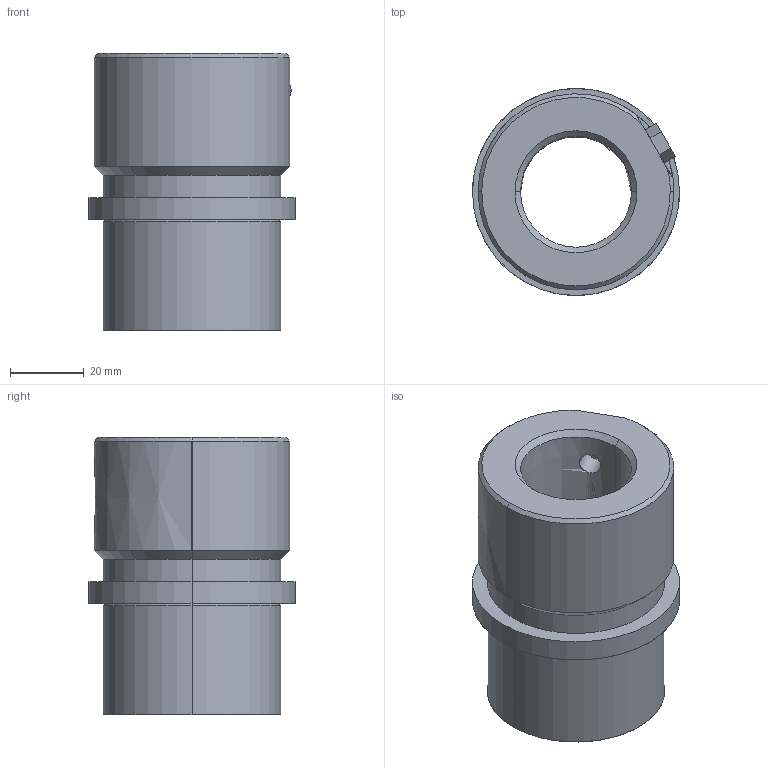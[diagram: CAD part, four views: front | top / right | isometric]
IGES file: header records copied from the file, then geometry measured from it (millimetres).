
Start section: START RECORD GO HERE.
Global section: file name: 741-30.igs; native system: DASSAULT SYSTEMES CATIA V5 R20 - www.3ds.com; preprocessor: CATIA Version 5 Release 20 ; author: Utente; organization: NB04-ASUS; date: 20210120.194017; units: millimetre
Bounding box: 56 x 56 x 75 mm (x, y, z)
Surface area: 23348.5 mm2 (no closed solid volume)
Topology: 0 solids, 0 shells, 42 faces, 184 edges, 184 vertices
Faces by surface type: revolution 27, plane 15
